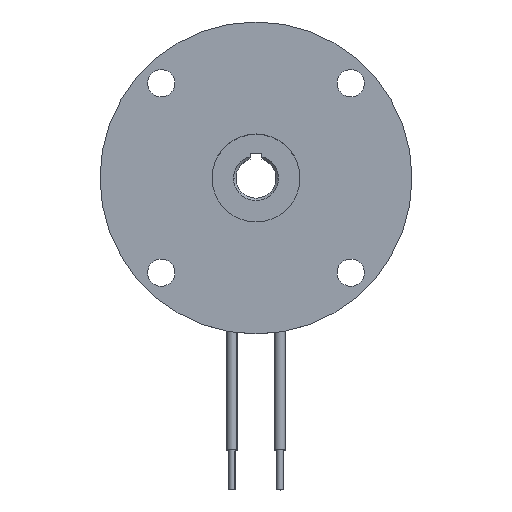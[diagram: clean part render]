
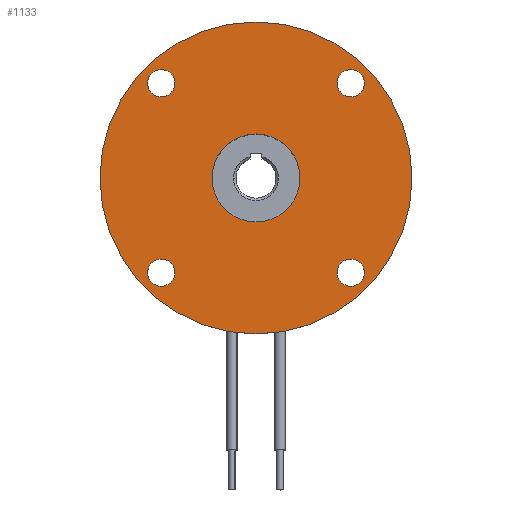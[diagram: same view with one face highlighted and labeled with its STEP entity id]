
A CAD part, top view. The second image highlights one B-rep face of the part: STEP entity #1133.
In plain terms, the highlighted planar face has unit normal (0, 0, 1).
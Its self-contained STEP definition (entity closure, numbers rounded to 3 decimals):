
#4 = CARTESIAN_POINT ( 'NONE',  ( 0., 0., 0. ) ) ;
#107 = DIRECTION ( 'NONE',  ( 0., 0., -1. ) ) ;
#137 = FACE_BOUND ( 'NONE', #5385, .T. ) ;
#157 = CIRCLE ( 'NONE', #273, 19.5 ) ;
#273 = AXIS2_PLACEMENT_3D ( 'NONE', #5994, #6027, #5956 ) ;
#278 = CIRCLE ( 'NONE', #3355, 1.7 ) ;
#326 = ORIENTED_EDGE ( 'NONE', *, *, #4357, .T. ) ;
#525 = CARTESIAN_POINT ( 'NONE',  ( -10.144, 11.844, 0. ) ) ;
#547 = CARTESIAN_POINT ( 'NONE',  ( 10.144, -11.844, 0. ) ) ;
#660 = DIRECTION ( 'NONE',  ( -1., 0., 0. ) ) ;
#692 = DIRECTION ( 'NONE',  ( -1., 0., 0. ) ) ;
#784 = DIRECTION ( 'NONE',  ( 0., 0., -1. ) ) ;
#792 = EDGE_CURVE ( 'NONE', #3522, #1953, #278, .T. ) ;
#1013 = CARTESIAN_POINT ( 'NONE',  ( 10.144, 11.844, 0. ) ) ;
#1021 = AXIS2_PLACEMENT_3D ( 'NONE', #4, #4494, #6778 ) ;
#1052 = DIRECTION ( 'NONE',  ( 0., 0., -1. ) ) ;
#1111 = AXIS2_PLACEMENT_3D ( 'NONE', #7087, #4313, #6551 ) ;
#1133 = ADVANCED_FACE ( 'NONE', ( #6810, #6295, #6334, #137, #2401, #4489 ), #3991, .F. ) ;
#1222 = VERTEX_POINT ( 'NONE', #2132 ) ;
#1255 = VERTEX_POINT ( 'NONE', #3266 ) ;
#1258 = CARTESIAN_POINT ( 'NONE',  ( 11.844, 11.844, 0. ) ) ;
#1278 = DIRECTION ( 'NONE',  ( 0., 0., -1. ) ) ;
#1282 = EDGE_CURVE ( 'NONE', #1354, #1222, #4021, .T. ) ;
#1317 = ORIENTED_EDGE ( 'NONE', *, *, #2156, .T. ) ;
#1342 = VERTEX_POINT ( 'NONE', #2164 ) ;
#1353 = DIRECTION ( 'NONE',  ( 0., 0., -1. ) ) ;
#1354 = VERTEX_POINT ( 'NONE', #525 ) ;
#1654 = CARTESIAN_POINT ( 'NONE',  ( 13.544, -11.844, 0. ) ) ;
#1760 = CIRCLE ( 'NONE', #1021, 5.5 ) ;
#1891 = ORIENTED_EDGE ( 'NONE', *, *, #6600, .F. ) ;
#1909 = AXIS2_PLACEMENT_3D ( 'NONE', #2849, #5822, #4607 ) ;
#1953 = VERTEX_POINT ( 'NONE', #1013 ) ;
#1967 = AXIS2_PLACEMENT_3D ( 'NONE', #6298, #107, #3472 ) ;
#1996 = DIRECTION ( 'NONE',  ( -1., 0., 0. ) ) ;
#2039 = EDGE_CURVE ( 'NONE', #5736, #1342, #6763, .T. ) ;
#2040 = EDGE_CURVE ( 'NONE', #4608, #3035, #5590, .T. ) ;
#2071 = DIRECTION ( 'NONE',  ( 0., 0., -1. ) ) ;
#2132 = CARTESIAN_POINT ( 'NONE',  ( -13.544, 11.844, 0. ) ) ;
#2156 = EDGE_CURVE ( 'NONE', #4550, #2361, #4279, .T. ) ;
#2164 = CARTESIAN_POINT ( 'NONE',  ( -13.544, -11.844, 0. ) ) ;
#2199 = ORIENTED_EDGE ( 'NONE', *, *, #4683, .T. ) ;
#2294 = CARTESIAN_POINT ( 'NONE',  ( -5.5, 0., 0. ) ) ;
#2361 = VERTEX_POINT ( 'NONE', #1654 ) ;
#2401 = FACE_OUTER_BOUND ( 'NONE', #6123, .T. ) ;
#2642 = ORIENTED_EDGE ( 'NONE', *, *, #6733, .T. ) ;
#2672 = AXIS2_PLACEMENT_3D ( 'NONE', #3997, #6301, #5652 ) ;
#2783 = CARTESIAN_POINT ( 'NONE',  ( -10.144, -11.844, 0. ) ) ;
#2849 = CARTESIAN_POINT ( 'NONE',  ( 0., 19.5, 0. ) ) ;
#2979 = CARTESIAN_POINT ( 'NONE',  ( 13.544, 11.844, 0. ) ) ;
#3016 = AXIS2_PLACEMENT_3D ( 'NONE', #6154, #1052, #3329 ) ;
#3035 = VERTEX_POINT ( 'NONE', #2294 ) ;
#3139 = CIRCLE ( 'NONE', #2672, 19.5 ) ;
#3168 = DIRECTION ( 'NONE',  ( -1., 0., 0. ) ) ;
#3183 = EDGE_LOOP ( 'NONE', ( #1317, #6937 ) ) ;
#3266 = CARTESIAN_POINT ( 'NONE',  ( 19.5, 0., 0. ) ) ;
#3301 = DIRECTION ( 'NONE',  ( -1., 0., 0. ) ) ;
#3329 = DIRECTION ( 'NONE',  ( -1., 0., 0. ) ) ;
#3337 = ORIENTED_EDGE ( 'NONE', *, *, #3554, .F. ) ;
#3355 = AXIS2_PLACEMENT_3D ( 'NONE', #1258, #784, #1996 ) ;
#3442 = AXIS2_PLACEMENT_3D ( 'NONE', #5204, #5757, #660 ) ;
#3472 = DIRECTION ( 'NONE',  ( -1., 0., 0. ) ) ;
#3522 = VERTEX_POINT ( 'NONE', #2979 ) ;
#3554 = EDGE_CURVE ( 'NONE', #5541, #1255, #157, .T. ) ;
#3625 = EDGE_LOOP ( 'NONE', ( #2642, #5948 ) ) ;
#3991 = PLANE ( 'NONE',  #1909 ) ;
#3997 = CARTESIAN_POINT ( 'NONE',  ( 0., 0., 0. ) ) ;
#4021 = CIRCLE ( 'NONE', #6966, 1.7 ) ;
#4191 = CIRCLE ( 'NONE', #1967, 1.7 ) ;
#4254 = CARTESIAN_POINT ( 'NONE',  ( -19.5, 0., 0. ) ) ;
#4279 = CIRCLE ( 'NONE', #5342, 1.7 ) ;
#4313 = DIRECTION ( 'NONE',  ( 0., 0., -1. ) ) ;
#4357 = EDGE_CURVE ( 'NONE', #1342, #5736, #5524, .T. ) ;
#4489 = FACE_BOUND ( 'NONE', #3625, .T. ) ;
#4494 = DIRECTION ( 'NONE',  ( 0., 0., -1. ) ) ;
#4541 = AXIS2_PLACEMENT_3D ( 'NONE', #5937, #5627, #3301 ) ;
#4550 = VERTEX_POINT ( 'NONE', #547 ) ;
#4607 = DIRECTION ( 'NONE',  ( -1., 0., 0. ) ) ;
#4608 = VERTEX_POINT ( 'NONE', #5648 ) ;
#4683 = EDGE_CURVE ( 'NONE', #1222, #1354, #4191, .T. ) ;
#4687 = CARTESIAN_POINT ( 'NONE',  ( 0., 0., 0. ) ) ;
#4768 = EDGE_CURVE ( 'NONE', #1953, #3522, #7144, .T. ) ;
#4858 = CARTESIAN_POINT ( 'NONE',  ( -11.844, 11.844, 0. ) ) ;
#4948 = ORIENTED_EDGE ( 'NONE', *, *, #792, .T. ) ;
#5204 = CARTESIAN_POINT ( 'NONE',  ( -11.844, -11.844, 0. ) ) ;
#5212 = AXIS2_PLACEMENT_3D ( 'NONE', #4687, #1278, #692 ) ;
#5277 = ORIENTED_EDGE ( 'NONE', *, *, #4768, .T. ) ;
#5342 = AXIS2_PLACEMENT_3D ( 'NONE', #6592, #1353, #3168 ) ;
#5385 = EDGE_LOOP ( 'NONE', ( #2199, #7278 ) ) ;
#5524 = CIRCLE ( 'NONE', #3016, 1.7 ) ;
#5541 = VERTEX_POINT ( 'NONE', #4254 ) ;
#5590 = CIRCLE ( 'NONE', #5212, 5.5 ) ;
#5627 = DIRECTION ( 'NONE',  ( 0., 0., -1. ) ) ;
#5648 = CARTESIAN_POINT ( 'NONE',  ( 5.5, 0., 0. ) ) ;
#5652 = DIRECTION ( 'NONE',  ( -1., 0., 0. ) ) ;
#5693 = EDGE_LOOP ( 'NONE', ( #5277, #4948 ) ) ;
#5736 = VERTEX_POINT ( 'NONE', #2783 ) ;
#5757 = DIRECTION ( 'NONE',  ( 0., 0., -1. ) ) ;
#5822 = DIRECTION ( 'NONE',  ( 0., 0., -1. ) ) ;
#5937 = CARTESIAN_POINT ( 'NONE',  ( 11.844, 11.844, 0. ) ) ;
#5948 = ORIENTED_EDGE ( 'NONE', *, *, #2040, .T. ) ;
#5956 = DIRECTION ( 'NONE',  ( -1., 0., 0. ) ) ;
#5994 = CARTESIAN_POINT ( 'NONE',  ( 0., 0., 0. ) ) ;
#6027 = DIRECTION ( 'NONE',  ( 0., 0., -1. ) ) ;
#6123 = EDGE_LOOP ( 'NONE', ( #3337, #1891 ) ) ;
#6154 = CARTESIAN_POINT ( 'NONE',  ( -11.844, -11.844, 0. ) ) ;
#6295 = FACE_BOUND ( 'NONE', #3183, .T. ) ;
#6298 = CARTESIAN_POINT ( 'NONE',  ( -11.844, 11.844, 0. ) ) ;
#6301 = DIRECTION ( 'NONE',  ( 0., 0., -1. ) ) ;
#6315 = EDGE_LOOP ( 'NONE', ( #326, #6436 ) ) ;
#6334 = FACE_BOUND ( 'NONE', #6315, .T. ) ;
#6436 = ORIENTED_EDGE ( 'NONE', *, *, #2039, .T. ) ;
#6551 = DIRECTION ( 'NONE',  ( -1., 0., 0. ) ) ;
#6578 = DIRECTION ( 'NONE',  ( -1., 0., 0. ) ) ;
#6592 = CARTESIAN_POINT ( 'NONE',  ( 11.844, -11.844, 0. ) ) ;
#6600 = EDGE_CURVE ( 'NONE', #1255, #5541, #3139, .T. ) ;
#6733 = EDGE_CURVE ( 'NONE', #3035, #4608, #1760, .T. ) ;
#6763 = CIRCLE ( 'NONE', #3442, 1.7 ) ;
#6778 = DIRECTION ( 'NONE',  ( -1., 0., 0. ) ) ;
#6810 = FACE_BOUND ( 'NONE', #5693, .T. ) ;
#6937 = ORIENTED_EDGE ( 'NONE', *, *, #7117, .T. ) ;
#6966 = AXIS2_PLACEMENT_3D ( 'NONE', #4858, #2071, #6578 ) ;
#7034 = CIRCLE ( 'NONE', #1111, 1.7 ) ;
#7087 = CARTESIAN_POINT ( 'NONE',  ( 11.844, -11.844, 0. ) ) ;
#7117 = EDGE_CURVE ( 'NONE', #2361, #4550, #7034, .T. ) ;
#7144 = CIRCLE ( 'NONE', #4541, 1.7 ) ;
#7278 = ORIENTED_EDGE ( 'NONE', *, *, #1282, .T. ) ;
